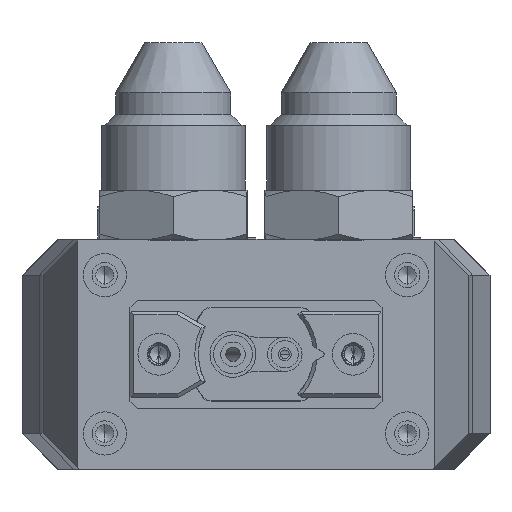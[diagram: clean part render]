
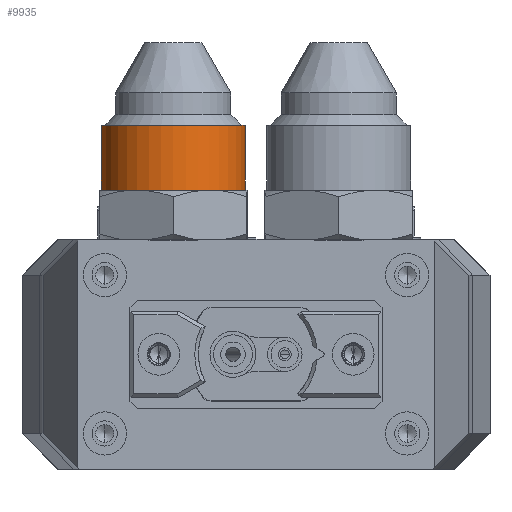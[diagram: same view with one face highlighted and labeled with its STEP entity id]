
A CAD part, front view. The second image highlights one B-rep face of the part: STEP entity #9935.
In plain terms, the highlighted cylindrical face has radius 10 mm (diameter 20 mm), a partial arc.
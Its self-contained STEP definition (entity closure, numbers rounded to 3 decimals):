
#468 = AXIS2_PLACEMENT_3D ( 'NONE', #10959, #42750, #63390 ) ;
#3189 = ORIENTED_EDGE ( 'NONE', *, *, #19265, .T. ) ;
#5364 = ORIENTED_EDGE ( 'NONE', *, *, #42193, .F. ) ;
#5371 = CYLINDRICAL_SURFACE ( 'NONE', #468, 10. ) ;
#9079 = DIRECTION ( 'NONE',  ( 0., 0., 1. ) ) ;
#9673 = CARTESIAN_POINT ( 'NONE',  ( -58.019, -126.235, 1030.303 ) ) ;
#9935 = ADVANCED_FACE ( 'NONE', ( #68649 ), #5371, .T. ) ;
#10959 = CARTESIAN_POINT ( 'NONE',  ( -58.019, -126.235, 1052.575 ) ) ;
#11937 = VERTEX_POINT ( 'NONE', #16543 ) ;
#12347 = CARTESIAN_POINT ( 'NONE',  ( -48.019, -126.235, 1021.303 ) ) ;
#13169 = EDGE_CURVE ( 'NONE', #49246, #40275, #49204, .T. ) ;
#14836 = LINE ( 'NONE', #20748, #57578 ) ;
#16543 = CARTESIAN_POINT ( 'NONE',  ( -68.019, -126.235, 1021.303 ) ) ;
#17740 = DIRECTION ( 'NONE',  ( 0., 0., 1. ) ) ;
#19265 = EDGE_CURVE ( 'NONE', #11937, #49246, #60654, .T. ) ;
#20748 = CARTESIAN_POINT ( 'NONE',  ( -68.019, -126.235, 1052.575 ) ) ;
#24891 = EDGE_LOOP ( 'NONE', ( #5364, #3189, #29378, #25296 ) ) ;
#25296 = ORIENTED_EDGE ( 'NONE', *, *, #44055, .T. ) ;
#29378 = ORIENTED_EDGE ( 'NONE', *, *, #13169, .T. ) ;
#30382 = DIRECTION ( 'NONE',  ( 1., 0., 0. ) ) ;
#31534 = CARTESIAN_POINT ( 'NONE',  ( -48.019, -126.235, 1030.303 ) ) ;
#34943 = CARTESIAN_POINT ( 'NONE',  ( -58.019, -126.235, 1021.303 ) ) ;
#39422 = CARTESIAN_POINT ( 'NONE',  ( -48.019, -126.235, 1052.575 ) ) ;
#40275 = VERTEX_POINT ( 'NONE', #31534 ) ;
#42193 = EDGE_CURVE ( 'NONE', #11937, #51268, #14836, .T. ) ;
#42750 = DIRECTION ( 'NONE',  ( 0., 0., 1. ) ) ;
#44055 = EDGE_CURVE ( 'NONE', #40275, #51268, #54321, .T. ) ;
#44252 = AXIS2_PLACEMENT_3D ( 'NONE', #9673, #68381, #63463 ) ;
#49204 = LINE ( 'NONE', #39422, #50781 ) ;
#49246 = VERTEX_POINT ( 'NONE', #12347 ) ;
#50781 = VECTOR ( 'NONE', #17740, 1000. ) ;
#51268 = VERTEX_POINT ( 'NONE', #58939 ) ;
#54321 = CIRCLE ( 'NONE', #44252, 10. ) ;
#57578 = VECTOR ( 'NONE', #63750, 1000. ) ;
#58413 = AXIS2_PLACEMENT_3D ( 'NONE', #34943, #9079, #30382 ) ;
#58939 = CARTESIAN_POINT ( 'NONE',  ( -68.019, -126.235, 1030.303 ) ) ;
#60654 = CIRCLE ( 'NONE', #58413, 10. ) ;
#63390 = DIRECTION ( 'NONE',  ( 1., 0., 0. ) ) ;
#63463 = DIRECTION ( 'NONE',  ( 1., 0., 0. ) ) ;
#63750 = DIRECTION ( 'NONE',  ( 0., 0., 1. ) ) ;
#68381 = DIRECTION ( 'NONE',  ( 0., 0., -1. ) ) ;
#68649 = FACE_OUTER_BOUND ( 'NONE', #24891, .T. ) ;
